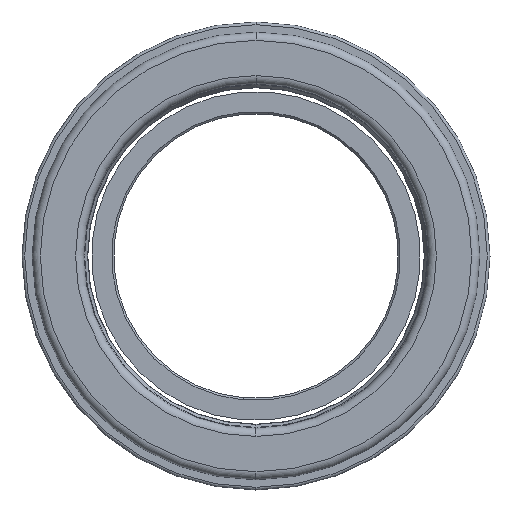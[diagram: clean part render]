
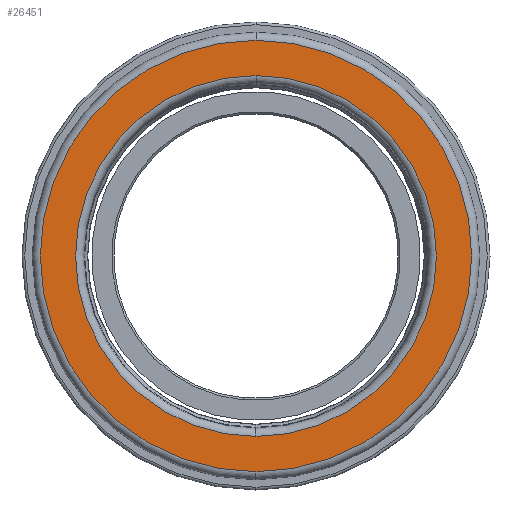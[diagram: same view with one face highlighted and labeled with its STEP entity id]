
A CAD part, left-side view. The second image highlights one B-rep face of the part: STEP entity #26451.
In plain terms, the highlighted planar face has unit normal (-1, 0, 0).
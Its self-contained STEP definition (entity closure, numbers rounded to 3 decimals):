
#349 = DIRECTION ( 'NONE',  ( -1., 0., 0. ) ) ;
#702 = CARTESIAN_POINT ( 'NONE',  ( 0., 0., 0. ) ) ;
#2636 = DIRECTION ( 'NONE',  ( -1., 0., 0. ) ) ;
#3757 = CARTESIAN_POINT ( 'NONE',  ( 0., 0., 31.8 ) ) ;
#4247 = DIRECTION ( 'NONE',  ( 0., 0., 1. ) ) ;
#5179 = CARTESIAN_POINT ( 'NONE',  ( 0., 0., -26.6 ) ) ;
#5688 = EDGE_CURVE ( 'NONE', #16173, #16144, #9806, .T. ) ;
#6368 = EDGE_CURVE ( 'NONE', #42772, #43196, #26175, .T. ) ;
#8954 = EDGE_LOOP ( 'NONE', ( #10300, #35067 ) ) ;
#9806 = CIRCLE ( 'NONE', #16709, 26.6 ) ;
#10300 = ORIENTED_EDGE ( 'NONE', *, *, #5688, .F. ) ;
#12951 = FACE_BOUND ( 'NONE', #8954, .T. ) ;
#13795 = CARTESIAN_POINT ( 'NONE',  ( 0., 26.6, 0. ) ) ;
#14176 = CARTESIAN_POINT ( 'NONE',  ( 0., 0., 0. ) ) ;
#16144 = VERTEX_POINT ( 'NONE', #5179 ) ;
#16173 = VERTEX_POINT ( 'NONE', #36946 ) ;
#16709 = AXIS2_PLACEMENT_3D ( 'NONE', #14176, #38706, #17701 ) ;
#17328 = DIRECTION ( 'NONE',  ( 1., 0., 0. ) ) ;
#17701 = DIRECTION ( 'NONE',  ( 0., 0., 1. ) ) ;
#21433 = CARTESIAN_POINT ( 'NONE',  ( 0., 0., 0. ) ) ;
#23666 = CARTESIAN_POINT ( 'NONE',  ( 0., 0., 0. ) ) ;
#24228 = EDGE_CURVE ( 'NONE', #16144, #16173, #24853, .T. ) ;
#24853 = CIRCLE ( 'NONE', #27377, 26.6 ) ;
#24978 = DIRECTION ( 'NONE',  ( 0., 0., 1. ) ) ;
#25333 = DIRECTION ( 'NONE',  ( -1., 0., 0. ) ) ;
#25887 = AXIS2_PLACEMENT_3D ( 'NONE', #21433, #349, #24978 ) ;
#26175 = CIRCLE ( 'NONE', #26445, 31.8 ) ;
#26445 = AXIS2_PLACEMENT_3D ( 'NONE', #702, #25333, #4247 ) ;
#26451 = ADVANCED_FACE ( 'NONE', ( #12951, #31603 ), #34822, .F. ) ;
#26967 = ORIENTED_EDGE ( 'NONE', *, *, #6368, .T. ) ;
#27231 = DIRECTION ( 'NONE',  ( 0., 0., 1. ) ) ;
#27377 = AXIS2_PLACEMENT_3D ( 'NONE', #23666, #2636, #27231 ) ;
#27513 = AXIS2_PLACEMENT_3D ( 'NONE', #13795, #17328, #41831 ) ;
#31603 = FACE_OUTER_BOUND ( 'NONE', #44289, .T. ) ;
#34772 = ORIENTED_EDGE ( 'NONE', *, *, #43185, .T. ) ;
#34822 = PLANE ( 'NONE',  #27513 ) ;
#35067 = ORIENTED_EDGE ( 'NONE', *, *, #24228, .F. ) ;
#35997 = CIRCLE ( 'NONE', #25887, 31.8 ) ;
#36946 = CARTESIAN_POINT ( 'NONE',  ( 0., 0., 26.6 ) ) ;
#38706 = DIRECTION ( 'NONE',  ( -1., 0., 0. ) ) ;
#39272 = CARTESIAN_POINT ( 'NONE',  ( 0., 0., -31.8 ) ) ;
#41831 = DIRECTION ( 'NONE',  ( 0., 0., -1. ) ) ;
#42772 = VERTEX_POINT ( 'NONE', #39272 ) ;
#43185 = EDGE_CURVE ( 'NONE', #43196, #42772, #35997, .T. ) ;
#43196 = VERTEX_POINT ( 'NONE', #3757 ) ;
#44289 = EDGE_LOOP ( 'NONE', ( #34772, #26967 ) ) ;
